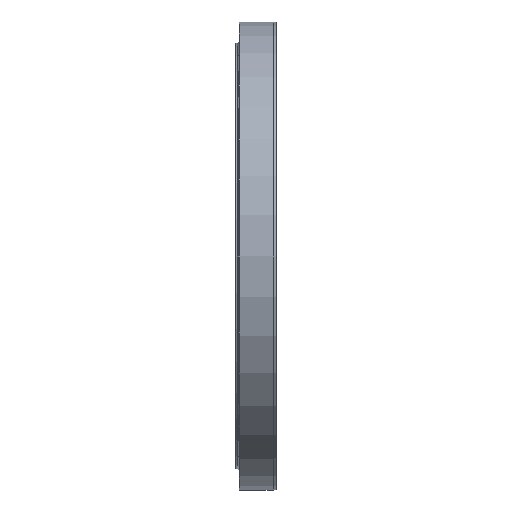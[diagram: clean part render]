
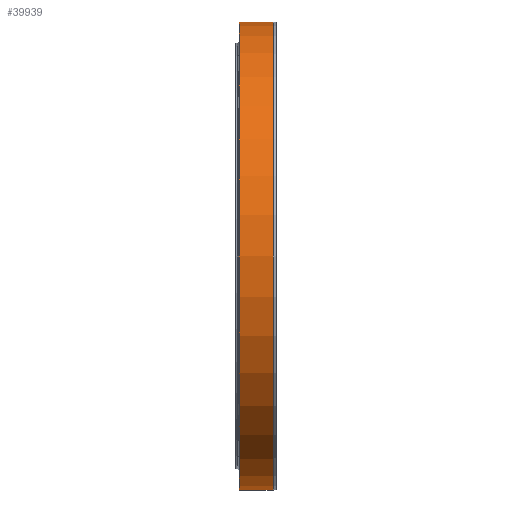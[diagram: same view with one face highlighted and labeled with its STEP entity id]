
A CAD part, left-side view. The second image highlights one B-rep face of the part: STEP entity #39939.
In plain terms, the highlighted cylindrical face has radius 785 mm (diameter 1570 mm), a partial arc.
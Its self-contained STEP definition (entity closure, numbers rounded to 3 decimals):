
#1616 = DIRECTION ( 'NONE',  ( 0., 0., -1. ) ) ;
#2235 = AXIS2_PLACEMENT_3D ( 'NONE', #30080, #23834, #1616 ) ;
#2366 = CARTESIAN_POINT ( 'NONE',  ( 0., -126.171, 0. ) ) ;
#2632 = VERTEX_POINT ( 'NONE', #31032 ) ;
#2796 = CARTESIAN_POINT ( 'NONE',  ( 0., -13.171, 0. ) ) ;
#6049 = EDGE_CURVE ( 'NONE', #17073, #38669, #22267, .T. ) ;
#9004 = DIRECTION ( 'NONE',  ( 0., -1., 0. ) ) ;
#9181 = CARTESIAN_POINT ( 'NONE',  ( 0., 0., -785. ) ) ;
#9786 = CARTESIAN_POINT ( 'NONE',  ( 0., -13.171, 785. ) ) ;
#10597 = CIRCLE ( 'NONE', #30511, 785. ) ;
#11581 = ORIENTED_EDGE ( 'NONE', *, *, #26083, .F. ) ;
#13289 = CIRCLE ( 'NONE', #33874, 785. ) ;
#14487 = FACE_OUTER_BOUND ( 'NONE', #32325, .T. ) ;
#14521 = EDGE_CURVE ( 'NONE', #22645, #2632, #22535, .T. ) ;
#15427 = DIRECTION ( 'NONE',  ( 0., -1., 0. ) ) ;
#15472 = DIRECTION ( 'NONE',  ( 0., 0., -1. ) ) ;
#17073 = VERTEX_POINT ( 'NONE', #22380 ) ;
#19848 = EDGE_CURVE ( 'NONE', #22645, #17073, #13289, .T. ) ;
#21680 = DIRECTION ( 'NONE',  ( 0., 0., -1. ) ) ;
#22267 = LINE ( 'NONE', #9181, #22840 ) ;
#22380 = CARTESIAN_POINT ( 'NONE',  ( 0., -13.171, -785. ) ) ;
#22535 = LINE ( 'NONE', #37922, #25636 ) ;
#22645 = VERTEX_POINT ( 'NONE', #9786 ) ;
#22840 = VECTOR ( 'NONE', #15427, 1000. ) ;
#23834 = DIRECTION ( 'NONE',  ( 0., -1., 0. ) ) ;
#24259 = ORIENTED_EDGE ( 'NONE', *, *, #14521, .F. ) ;
#24857 = ORIENTED_EDGE ( 'NONE', *, *, #19848, .T. ) ;
#25636 = VECTOR ( 'NONE', #31502, 1000. ) ;
#26083 = EDGE_CURVE ( 'NONE', #2632, #38669, #10597, .T. ) ;
#28741 = CARTESIAN_POINT ( 'NONE',  ( 0., -126.171, -785. ) ) ;
#30080 = CARTESIAN_POINT ( 'NONE',  ( 0., 0., 0. ) ) ;
#30511 = AXIS2_PLACEMENT_3D ( 'NONE', #2366, #9004, #21680 ) ;
#31032 = CARTESIAN_POINT ( 'NONE',  ( 0., -126.171, 785. ) ) ;
#31502 = DIRECTION ( 'NONE',  ( 0., -1., 0. ) ) ;
#32325 = EDGE_LOOP ( 'NONE', ( #24259, #24857, #36872, #11581 ) ) ;
#33874 = AXIS2_PLACEMENT_3D ( 'NONE', #2796, #40798, #15472 ) ;
#36872 = ORIENTED_EDGE ( 'NONE', *, *, #6049, .T. ) ;
#37922 = CARTESIAN_POINT ( 'NONE',  ( 0., 0., 785. ) ) ;
#38669 = VERTEX_POINT ( 'NONE', #28741 ) ;
#39939 = ADVANCED_FACE ( 'NONE', ( #14487 ), #40026, .T. ) ;
#40026 = CYLINDRICAL_SURFACE ( 'NONE', #2235, 785. ) ;
#40798 = DIRECTION ( 'NONE',  ( 0., -1., 0. ) ) ;
